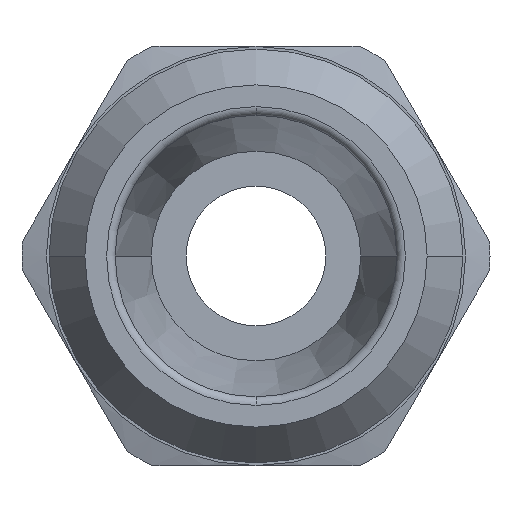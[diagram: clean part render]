
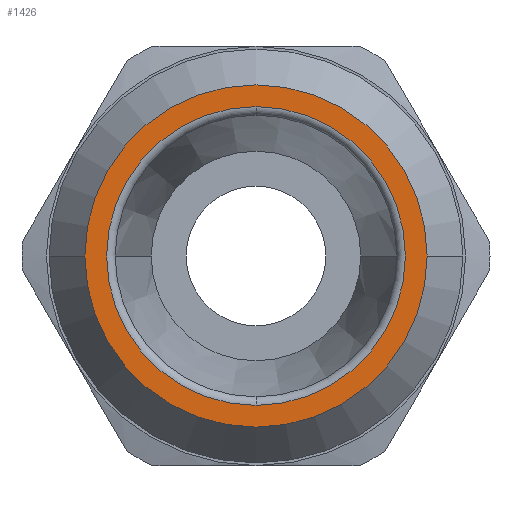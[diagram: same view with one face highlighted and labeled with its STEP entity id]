
A CAD part, left-side view. The second image highlights one B-rep face of the part: STEP entity #1426.
In plain terms, the highlighted planar face has unit normal (-1, 0, 0) as drawn and (0, 0, 1) by its records, which use the part's own axes.
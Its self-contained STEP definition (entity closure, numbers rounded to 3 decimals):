
#901=CARTESIAN_POINT('',(0.,-4.9,12.0));
#902=VERTEX_POINT('',#901);
#909=CARTESIAN_POINT('',(0.,4.9,12.));
#910=VERTEX_POINT('',#909);
#911=CARTESIAN_POINT('',(0.,0.,12.0));
#912=DIRECTION('',(0.0,0.0,-1.0));
#913=DIRECTION('',(0.0,-1.0,0.0));
#914=AXIS2_PLACEMENT_3D('',#911,#912,#913);
#915=CIRCLE('',#914,4.9);
#916=EDGE_CURVE('',#902,#910,#915,.T.);
#974=CARTESIAN_POINT('',(4.277,0.,12.0));
#975=VERTEX_POINT('',#974);
#993=CARTESIAN_POINT('',(-4.277,0.,12.0));
#994=VERTEX_POINT('',#993);
#1002=CARTESIAN_POINT('',(0.,-4.277,12.0));
#1003=VERTEX_POINT('',#1002);
#1004=CARTESIAN_POINT('',(0.,0.,12.0));
#1005=DIRECTION('',(0.0,0.0,1.0));
#1006=DIRECTION('',(0.0,1.0,0.0));
#1007=AXIS2_PLACEMENT_3D('',#1004,#1005,#1006);
#1008=CIRCLE('',#1007,4.277);
#1009=EDGE_CURVE('',#994,#1003,#1008,.T.);
#1011=CARTESIAN_POINT('',(0.,0.,12.0));
#1012=DIRECTION('',(0.0,0.0,1.0));
#1013=DIRECTION('',(0.0,1.0,0.0));
#1014=AXIS2_PLACEMENT_3D('',#1011,#1012,#1013);
#1015=CIRCLE('',#1014,4.277);
#1016=EDGE_CURVE('',#1003,#975,#1015,.T.);
#1387=CARTESIAN_POINT('',(0.,0.,12.0));
#1388=DIRECTION('',(0.0,0.0,1.0));
#1389=DIRECTION('',(0.0,1.0,0.0));
#1390=AXIS2_PLACEMENT_3D('',#1387,#1388,#1389);
#1391=CIRCLE('',#1390,4.277);
#1392=EDGE_CURVE('',#975,#994,#1391,.T.);
#1406=CARTESIAN_POINT('',(0.,-4.488,12.0));
#1407=DIRECTION('',(0.0,0.0,1.0));
#1408=DIRECTION('',(-1.0,0.0,0.0));
#1409=AXIS2_PLACEMENT_3D('',#1406,#1407,#1408);
#1410=PLANE('',#1409);
#1411=ORIENTED_EDGE('',*,*,#916,.F.);
#1412=CARTESIAN_POINT('',(0.,0.,12.0));
#1413=DIRECTION('',(0.0,0.0,-1.0));
#1414=DIRECTION('',(0.0,-1.0,0.0));
#1415=AXIS2_PLACEMENT_3D('',#1412,#1413,#1414);
#1416=CIRCLE('',#1415,4.9);
#1417=EDGE_CURVE('',#910,#902,#1416,.T.);
#1418=ORIENTED_EDGE('',*,*,#1417,.F.);
#1419=EDGE_LOOP('',(#1411,#1418));
#1420=FACE_OUTER_BOUND('',#1419,.T.);
#1421=ORIENTED_EDGE('',*,*,#1016,.F.);
#1422=ORIENTED_EDGE('',*,*,#1009,.F.);
#1423=ORIENTED_EDGE('',*,*,#1392,.F.);
#1424=EDGE_LOOP('',(#1421,#1422,#1423));
#1425=FACE_BOUND('',#1424,.T.);
#1426=ADVANCED_FACE('',(#1420,#1425),#1410,.T.);
